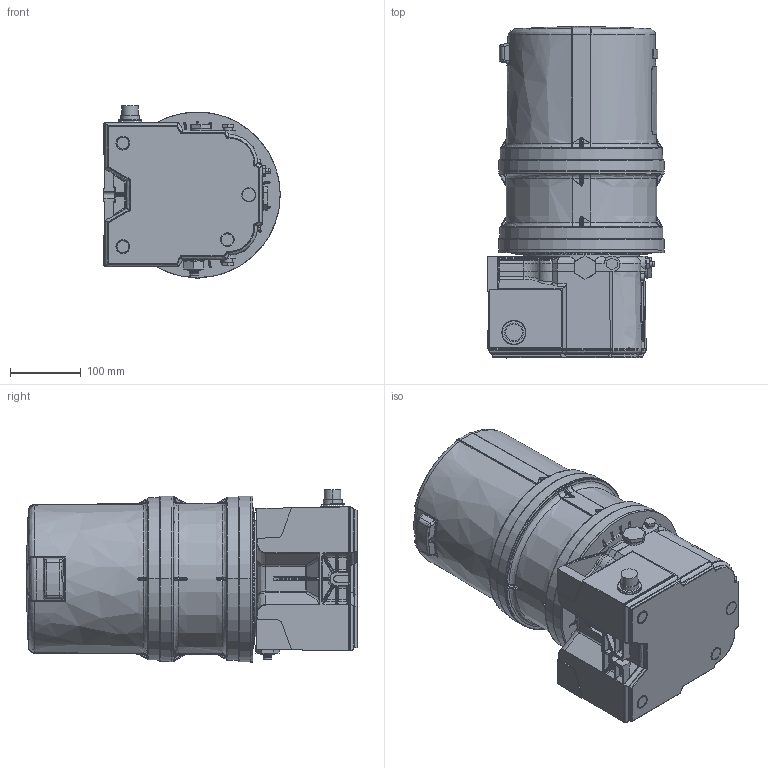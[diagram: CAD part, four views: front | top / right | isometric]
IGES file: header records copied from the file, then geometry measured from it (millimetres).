
Start section:  PTC IGES file: 96g038-en-zdk.igs
Global section: file name: 96g038-en-zdk.igs; native system: Creo Parametric by PTC Inc.; preprocessor: 2023424; author: ctsxj5; organization: Unknown; date: 20240731.174914; units: inch
Bounding box: 248.92 x 468.45 x 244.2 mm (x, y, z)
Surface area: 772420.6 mm2 (no closed solid volume)
Topology: 0 solids, 0 shells, 1299 faces, 6941 edges, 6933 vertices
Faces by surface type: bspline 682, revolution 617
